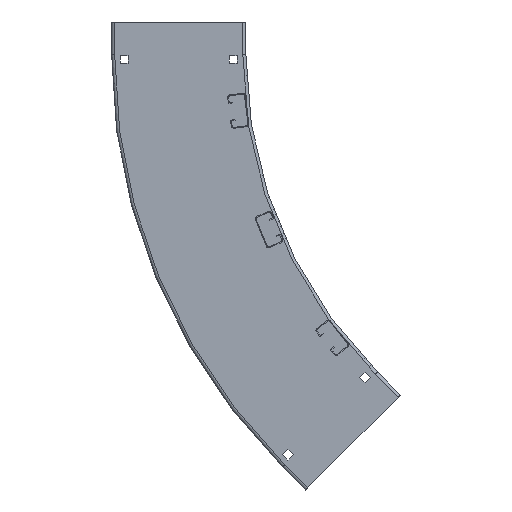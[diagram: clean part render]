
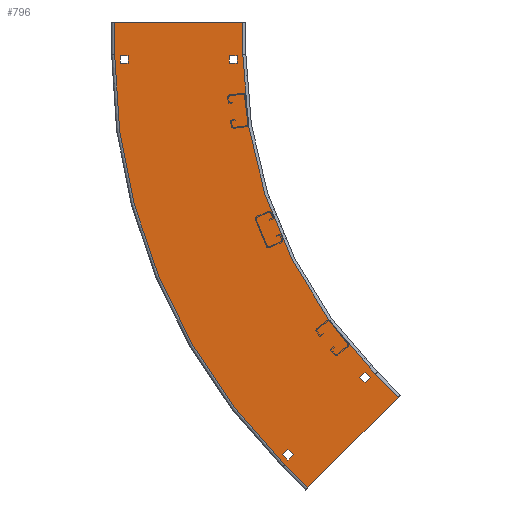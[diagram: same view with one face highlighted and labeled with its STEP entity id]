
A CAD part, left-side view. The second image highlights one B-rep face of the part: STEP entity #796.
In plain terms, the highlighted planar face has unit normal (-1, 0, 0).
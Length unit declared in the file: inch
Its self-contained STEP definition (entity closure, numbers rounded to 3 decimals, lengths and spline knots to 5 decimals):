
#1=DIRECTION('',(0.,-0.707,-0.707));
#2=VECTOR('',#1,6.858);
#3=CARTESIAN_POINT('',(0.,20.69702,23.17189));
#4=LINE('',#3,#2);
#5=DIRECTION('',(0.,1.,0.));
#6=VECTOR('',#5,6.858);
#7=CARTESIAN_POINT('',(0.,24.162,-1.75));
#8=LINE('',#7,#6);
#9=DIRECTION('',(0.,0.,-1.));
#10=VECTOR('',#9,0.41);
#11=CARTESIAN_POINT('',(0.,30.7135,0.455));
#12=LINE('',#11,#10);
#13=DIRECTION('',(0.,-1.,0.));
#14=VECTOR('',#13,0.41);
#15=CARTESIAN_POINT('',(0.,30.7135,0.045));
#16=LINE('',#15,#14);
#17=DIRECTION('',(0.,0.,1.));
#18=VECTOR('',#17,0.41);
#19=CARTESIAN_POINT('',(0.,30.3035,0.045));
#20=LINE('',#19,#18);
#21=DIRECTION('',(0.,1.,0.));
#22=VECTOR('',#21,0.41);
#23=CARTESIAN_POINT('',(0.,30.3035,0.455));
#24=LINE('',#23,#22);
#25=DIRECTION('',(0.,1.,0.));
#26=VECTOR('',#25,0.41);
#27=CARTESIAN_POINT('',(0.,24.4685,0.455));
#28=LINE('',#27,#26);
#29=DIRECTION('',(0.,0.,-1.));
#30=VECTOR('',#29,0.41);
#31=CARTESIAN_POINT('',(0.,24.8785,0.455));
#32=LINE('',#31,#30);
#33=DIRECTION('',(0.,-1.,0.));
#34=VECTOR('',#33,0.41);
#35=CARTESIAN_POINT('',(0.,24.8785,0.045));
#36=LINE('',#35,#34);
#37=DIRECTION('',(0.,0.,1.));
#38=VECTOR('',#37,0.41);
#39=CARTESIAN_POINT('',(0.,24.4685,0.045));
#40=LINE('',#39,#38);
#41=DIRECTION('',(0.,-0.707,-0.707));
#42=VECTOR('',#41,0.41);
#43=CARTESIAN_POINT('',(0.,17.91262,17.26916));
#44=LINE('',#43,#42);
#45=DIRECTION('',(0.,-0.707,0.707));
#46=VECTOR('',#45,0.41);
#47=CARTESIAN_POINT('',(0.,17.62271,16.97924));
#48=LINE('',#47,#46);
#49=DIRECTION('',(0.,0.707,0.707));
#50=VECTOR('',#49,0.41);
#51=CARTESIAN_POINT('',(0.,17.3328,17.26916));
#52=LINE('',#51,#50);
#53=DIRECTION('',(0.,0.707,-0.707));
#54=VECTOR('',#53,0.41);
#55=CARTESIAN_POINT('',(0.,17.62271,17.55907));
#56=LINE('',#55,#54);
#57=DIRECTION('',(0.,0.707,0.707));
#58=VECTOR('',#57,0.41);
#59=CARTESIAN_POINT('',(0.,21.45893,21.39529));
#60=LINE('',#59,#58);
#61=DIRECTION('',(0.,0.707,-0.707));
#62=VECTOR('',#61,0.41);
#63=CARTESIAN_POINT('',(0.,21.74884,21.6852));
#64=LINE('',#63,#62);
#65=DIRECTION('',(0.,-0.707,-0.707));
#66=VECTOR('',#65,0.41);
#67=CARTESIAN_POINT('',(0.,22.03876,21.39529));
#68=LINE('',#67,#66);
#69=DIRECTION('',(0.,-0.707,0.707));
#70=VECTOR('',#69,0.41);
#71=CARTESIAN_POINT('',(0.,21.74884,21.10538));
#72=LINE('',#71,#70);
#73=DIRECTION('',(0.,0.,1.));
#74=VECTOR('',#73,1.75);
#75=CARTESIAN_POINT('',(0.,31.02,-1.75));
#76=LINE('',#75,#74);
#114=DIRECTION('',(0.,0.,-1.));
#115=VECTOR('',#114,1.75);
#116=CARTESIAN_POINT('',(0.,24.162,0.));
#117=LINE('',#116,#115);
#123=CARTESIAN_POINT('',(0.,0.,0.));
#124=DIRECTION('',(-1.,0.,0.));
#125=DIRECTION('',(0.,0.707,0.707));
#126=AXIS2_PLACEMENT_3D('',#123,#124,#125);
#128=DIRECTION('',(0.,0.707,-0.707));
#129=VECTOR('',#128,1.75);
#130=CARTESIAN_POINT('',(0.,15.84768,18.32255));
#131=LINE('',#130,#129);
#169=DIRECTION('',(0.,-0.707,0.707));
#170=VECTOR('',#169,1.75);
#171=CARTESIAN_POINT('',(0.,21.93445,21.93445));
#172=LINE('',#171,#170);
#178=CARTESIAN_POINT('',(0.,0.,0.));
#179=DIRECTION('',(1.,0.,0.));
#180=DIRECTION('',(0.,1.,0.));
#181=AXIS2_PLACEMENT_3D('',#178,#179,#180);
#573=CARTESIAN_POINT('',(0.,15.84768,18.32255));
#575=VERTEX_POINT('',#573);
#579=CARTESIAN_POINT('',(0.,17.08511,17.08511));
#581=VERTEX_POINT('',#579);
#585=CARTESIAN_POINT('',(0.,24.162,0.));
#587=VERTEX_POINT('',#585);
#591=CARTESIAN_POINT('',(0.,24.162,-1.75));
#593=VERTEX_POINT('',#591);
#621=CARTESIAN_POINT('',(0.,31.02,-1.75));
#622=VERTEX_POINT('',#621);
#623=CARTESIAN_POINT('',(0.,20.69702,23.17189));
#624=VERTEX_POINT('',#623);
#629=CARTESIAN_POINT('',(0.,31.02,0.));
#631=VERTEX_POINT('',#629);
#635=CARTESIAN_POINT('',(0.,21.93445,21.93445));
#637=VERTEX_POINT('',#635);
#669=CARTESIAN_POINT('',(0.,30.7135,0.455));
#670=CARTESIAN_POINT('',(0.,30.7135,0.045));
#671=VERTEX_POINT('',#669);
#672=VERTEX_POINT('',#670);
#673=CARTESIAN_POINT('',(0.,30.3035,0.045));
#674=VERTEX_POINT('',#673);
#675=CARTESIAN_POINT('',(0.,30.3035,0.455));
#676=VERTEX_POINT('',#675);
#677=CARTESIAN_POINT('',(0.,24.4685,0.455));
#678=CARTESIAN_POINT('',(0.,24.8785,0.455));
#679=VERTEX_POINT('',#677);
#680=VERTEX_POINT('',#678);
#681=CARTESIAN_POINT('',(0.,24.8785,0.045));
#682=VERTEX_POINT('',#681);
#683=CARTESIAN_POINT('',(0.,24.4685,0.045));
#684=VERTEX_POINT('',#683);
#701=CARTESIAN_POINT('',(0.,17.91262,17.26916));
#702=CARTESIAN_POINT('',(0.,17.62271,16.97924));
#703=VERTEX_POINT('',#701);
#704=VERTEX_POINT('',#702);
#705=CARTESIAN_POINT('',(0.,17.3328,17.26916));
#706=VERTEX_POINT('',#705);
#707=CARTESIAN_POINT('',(0.,17.62271,17.55907));
#708=VERTEX_POINT('',#707);
#709=CARTESIAN_POINT('',(0.,21.45893,21.39529));
#710=CARTESIAN_POINT('',(0.,21.74884,21.6852));
#711=VERTEX_POINT('',#709);
#712=VERTEX_POINT('',#710);
#713=CARTESIAN_POINT('',(0.,22.03876,21.39529));
#714=VERTEX_POINT('',#713);
#715=CARTESIAN_POINT('',(0.,21.74884,21.10538));
#716=VERTEX_POINT('',#715);
#733=CARTESIAN_POINT('',(0.,0.,0.));
#734=DIRECTION('',(1.,0.,0.));
#735=DIRECTION('',(0.,0.,-1.));
#736=AXIS2_PLACEMENT_3D('',#733,#734,#735);
#737=PLANE('',#736);
#739=ORIENTED_EDGE('',*,*,#738,.T.);
#741=ORIENTED_EDGE('',*,*,#740,.T.);
#743=ORIENTED_EDGE('',*,*,#742,.T.);
#745=ORIENTED_EDGE('',*,*,#744,.T.);
#747=ORIENTED_EDGE('',*,*,#746,.T.);
#749=ORIENTED_EDGE('',*,*,#748,.T.);
#751=ORIENTED_EDGE('',*,*,#750,.T.);
#753=ORIENTED_EDGE('',*,*,#752,.T.);
#754=EDGE_LOOP('',(#739,#741,#743,#745,#747,#749,#751,#753));
#755=FACE_OUTER_BOUND('',#754,.F.);
#757=ORIENTED_EDGE('',*,*,#756,.T.);
#759=ORIENTED_EDGE('',*,*,#758,.T.);
#761=ORIENTED_EDGE('',*,*,#760,.T.);
#763=ORIENTED_EDGE('',*,*,#762,.T.);
#764=EDGE_LOOP('',(#757,#759,#761,#763));
#765=FACE_BOUND('',#764,.F.);
#767=ORIENTED_EDGE('',*,*,#766,.T.);
#769=ORIENTED_EDGE('',*,*,#768,.T.);
#771=ORIENTED_EDGE('',*,*,#770,.T.);
#773=ORIENTED_EDGE('',*,*,#772,.T.);
#774=EDGE_LOOP('',(#767,#769,#771,#773));
#775=FACE_BOUND('',#774,.F.);
#777=ORIENTED_EDGE('',*,*,#776,.T.);
#779=ORIENTED_EDGE('',*,*,#778,.T.);
#781=ORIENTED_EDGE('',*,*,#780,.T.);
#783=ORIENTED_EDGE('',*,*,#782,.T.);
#784=EDGE_LOOP('',(#777,#779,#781,#783));
#785=FACE_BOUND('',#784,.F.);
#787=ORIENTED_EDGE('',*,*,#786,.T.);
#789=ORIENTED_EDGE('',*,*,#788,.T.);
#791=ORIENTED_EDGE('',*,*,#790,.T.);
#793=ORIENTED_EDGE('',*,*,#792,.T.);
#794=EDGE_LOOP('',(#787,#789,#791,#793));
#795=FACE_BOUND('',#794,.F.);
#796=ADVANCED_FACE('',(#755,#765,#775,#785,#795),#737,.F.);
#127=CIRCLE('',#126,24.162);
#182=CIRCLE('',#181,31.02);
#738=EDGE_CURVE('',#622,#631,#76,.T.);
#740=EDGE_CURVE('',#631,#637,#182,.T.);
#742=EDGE_CURVE('',#637,#624,#172,.T.);
#744=EDGE_CURVE('',#624,#575,#4,.T.);
#746=EDGE_CURVE('',#575,#581,#131,.T.);
#748=EDGE_CURVE('',#581,#587,#127,.T.);
#750=EDGE_CURVE('',#587,#593,#117,.T.);
#752=EDGE_CURVE('',#593,#622,#8,.T.);
#756=EDGE_CURVE('',#671,#672,#12,.T.);
#758=EDGE_CURVE('',#672,#674,#16,.T.);
#760=EDGE_CURVE('',#674,#676,#20,.T.);
#762=EDGE_CURVE('',#676,#671,#24,.T.);
#766=EDGE_CURVE('',#679,#680,#28,.T.);
#768=EDGE_CURVE('',#680,#682,#32,.T.);
#770=EDGE_CURVE('',#682,#684,#36,.T.);
#772=EDGE_CURVE('',#684,#679,#40,.T.);
#776=EDGE_CURVE('',#703,#704,#44,.T.);
#778=EDGE_CURVE('',#704,#706,#48,.T.);
#780=EDGE_CURVE('',#706,#708,#52,.T.);
#782=EDGE_CURVE('',#708,#703,#56,.T.);
#786=EDGE_CURVE('',#711,#712,#60,.T.);
#788=EDGE_CURVE('',#712,#714,#64,.T.);
#790=EDGE_CURVE('',#714,#716,#68,.T.);
#792=EDGE_CURVE('',#716,#711,#72,.T.);
